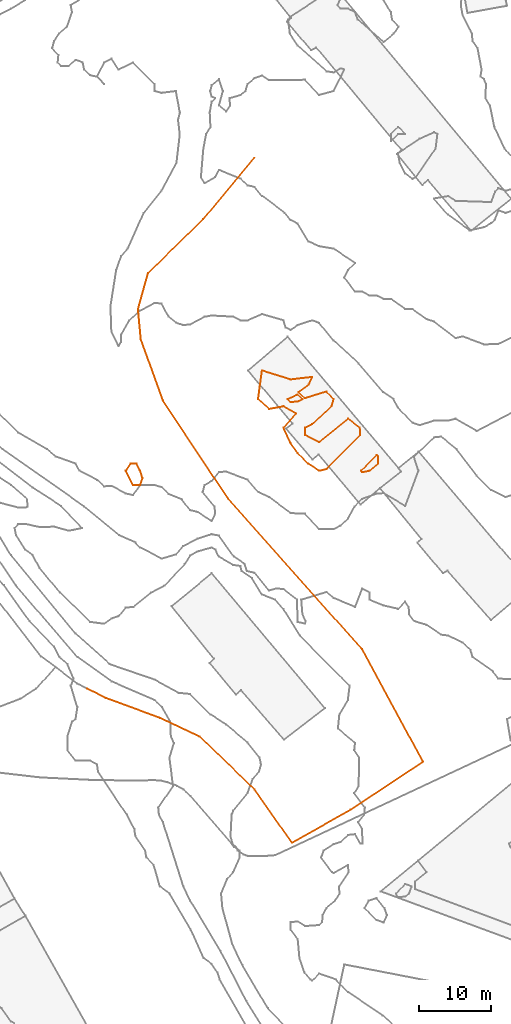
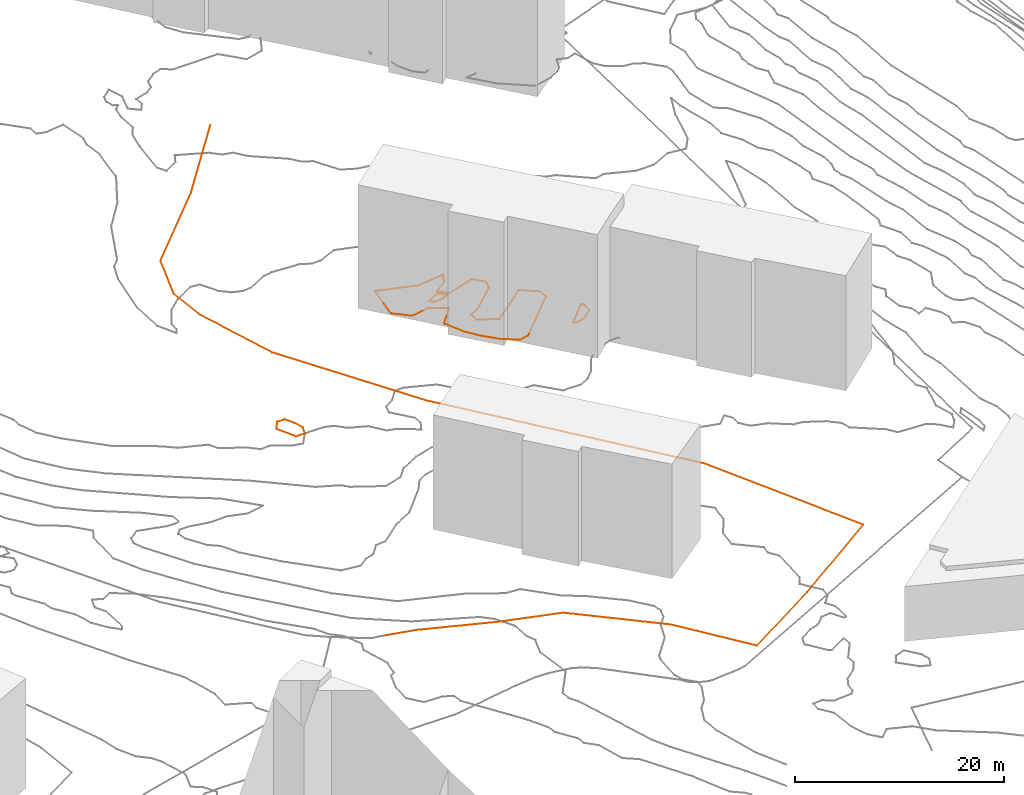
# Not in any storey, part 144 of 419: 5 proxies.
"""IFC2X3 model written with IfcOpenShell, lengths in metres."""

from ifc_helpers import new_model, entity, si_unit, frame, origin_with_axes, place, context, subcontext, project, element, save


model = new_model("IFC2X3")

# Units and contexts
model_context = context("Model", 3, precision=1e-05, world=origin_with_axes())
body_context = subcontext(model_context, "Body", "Model", "MODEL_VIEW")
ifc_project = project(units=[si_unit("AREAUNIT", "SQUARE_METRE"), si_unit("LENGTHUNIT", "METRE")], contexts=[model_context])

# Proxies
proxy_1_placement = place(None, frame((120.6920204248, 564.4976909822, 16.2), z_axis=(0.0, 0.0, 1.0), x_axis=(1.0, 0.0, 0.0)))
element("IfcBuildingElementProxy", 1, at=proxy_1_placement, Name="Route 336", ObjectType="NOTDEFINED", context=body_context, shape_type="GeometricCurveSet", body=[
    entity("IfcGeometricCurveSet", [entity("IfcPolyline", [entity("IfcCartesianPoint", [23.4, 74.2000000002, 6.6]), entity("IfcCartesianPoint", [16.2000000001, 65.5, 6.4]), entity("IfcCartesianPoint", [8.5, 58.0, 5.7]), entity("IfcCartesianPoint", [7.1, 53.0, 5.3]), entity("IfcCartesianPoint", [7.5, 48.8000000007, 5.3]), entity("IfcCartesianPoint", [10.6, 40.2000000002, 5.0]), entity("IfcCartesianPoint", [19.7000000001, 26.5, 4.5]), entity("IfcCartesianPoint", [38.4, 5.5, 3.3]), entity("IfcCartesianPoint", [46.9, -10.1999999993, 2.7]), entity("IfcCartesianPoint", [36.8, -16.8999999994, 2.4]), entity("IfcCartesianPoint", [28.6, -21.5, 1.8]), entity("IfcCartesianPoint", [23.4, -14.0999999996, 1.6]), entity("IfcCartesianPoint", [15.7000000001, -6.6999999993, 1.2]), entity("IfcCartesianPoint", [10.2000000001, -4.0999999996, 0.5]), entity("IfcCartesianPoint", [2.6, -1.2999999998, 0.5]), entity("IfcCartesianPoint", [0.0, 0.0, 0.0])])]),
])
proxy_2_placement = place(None, frame((148.6920204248, 604.8976909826, 21.0), z_axis=(0.0, 0.0, 1.0), x_axis=(1.0, 0.0, 0.0)))
element("IfcBuildingElementProxy", 2, at=proxy_2_placement, Name="Contour 21.0 m", ObjectType="NOTDEFINED", context=body_context, shape_type="GeometricCurveSet", body=[
    entity("IfcGeometricCurveSet", [entity("IfcPolyline", [entity("IfcCartesianPoint", [1.4, -0.333333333, 0.0]), entity("IfcCartesianPoint", [2.0666666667, 0.0, 0.0]), entity("IfcCartesianPoint", [1.4, 0.666666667, 0.0]), entity("IfcCartesianPoint", [0.0, 0.0, 0.0]), entity("IfcCartesianPoint", [0.4, -0.4000000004, 0.0]), entity("IfcCartesianPoint", [1.4, -0.333333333, 0.0])])]),
])
proxy_3_placement = place(None, frame((144.5586862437, 604.8976909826, 21.0), z_axis=(0.0, 0.0, 1.0), x_axis=(1.0, 0.0, 0.0)))
element("IfcBuildingElementProxy", 3, at=proxy_3_placement, Name="Contour 21.0 m", ObjectType="NOTDEFINED", context=body_context, shape_type="GeometricCurveSet", body=[
    entity("IfcGeometricCurveSet", [entity("IfcPolyline", [entity("IfcCartesianPoint", [8.5334341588, -10.0, 0.0]), entity("IfcCartesianPoint", [6.9777880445, -9.0, 0.0]), entity("IfcCartesianPoint", [5.5333341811, -7.500016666, 0.0]), entity("IfcCartesianPoint", [4.5333341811, -6.1428610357, 0.0]), entity("IfcCartesianPoint", [3.5333341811, -4.0000333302, 0.0]), entity("IfcCartesianPoint", [5.2833341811, -2.0, 0.0]), entity("IfcCartesianPoint", [3.5333341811, -1.0000249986, 0.0]), entity("IfcCartesianPoint", [1.5333341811, -1.3636426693, 0.0]), entity("IfcCartesianPoint", [0.0, 0.0, 0.0]), entity("IfcCartesianPoint", [0.5333341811, 4.0000499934, 0.0]), entity("IfcCartesianPoint", [4.5333341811, 2.75, 0.0]), entity("IfcCartesianPoint", [7.5333341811, 3.100001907, 0.0]), entity("IfcCartesianPoint", [7.0333508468, 2.0, 0.0]), entity("IfcCartesianPoint", [5.6583371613, 1.0, 0.0]), entity("IfcCartesianPoint", [6.5333341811, 0.1250029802, 0.0]), entity("IfcCartesianPoint", [9.5333341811, 1.0833346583, 0.0]), entity("IfcCartesianPoint", [10.5333432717, 0.0, 0.0]), entity("IfcCartesianPoint", [10.2476121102, -1.0, 0.0]), entity("IfcCartesianPoint", [7.5333341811, -3.5000249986, 0.0]), entity("IfcCartesianPoint", [6.5333841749, -4.0, 0.0]), entity("IfcCartesianPoint", [6.5334341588, -5.0, 0.0]), entity("IfcCartesianPoint", [8.5333341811, -5.9999000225, 0.0]), entity("IfcCartesianPoint", [12.5333341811, -2.7333299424, 0.0]), entity("IfcCartesianPoint", [14.2000008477, -4.0, 0.0]), entity("IfcCartesianPoint", [14.2392211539, -5.0, 0.0]), entity("IfcCartesianPoint", [9.5333341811, -9.75, 0.0]), entity("IfcCartesianPoint", [8.5334341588, -10.0, 0.0])])]),
])
proxy_4_placement = place(None, frame((158.9253484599, 594.8976909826, 21.0), z_axis=(0.0, 0.0, 1.0), x_axis=(1.0, 0.0, 0.0)))
element("IfcBuildingElementProxy", 4, at=proxy_4_placement, Name="Contour 21.0 m", ObjectType="NOTDEFINED", context=body_context, shape_type="GeometricCurveSet", body=[
    entity("IfcGeometricCurveSet", [entity("IfcPolyline", [entity("IfcCartesianPoint", [1.2051343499, 0.0, 0.0]), entity("IfcCartesianPoint", [0.1666719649, -0.2000000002, 0.0]), entity("IfcCartesianPoint", [0.0, 0.0, 0.0]), entity("IfcCartesianPoint", [2.1666719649, 2.2142886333, 0.0]), entity("IfcCartesianPoint", [2.4166759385, 2.0, 0.0]), entity("IfcCartesianPoint", [2.3666745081, 1.0, 0.0]), entity("IfcCartesianPoint", [1.2051343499, 0.0, 0.0])])]),
])
proxy_5_placement = place(None, frame((126.0920537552, 594.8976909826, 20.0), z_axis=(0.0, 0.0, 1.0), x_axis=(1.0, 0.0, 0.0)))
element("IfcBuildingElementProxy", 5, at=proxy_5_placement, Name="Contour 20.0 m", ObjectType="NOTDEFINED", context=body_context, shape_type="GeometricCurveSet", body=[
    entity("IfcGeometricCurveSet", [entity("IfcPolyline", [entity("IfcCartesianPoint", [1.9999666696, -1.9999000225, 0.0]), entity("IfcCartesianPoint", [2.333300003, -1.0, 0.0]), entity("IfcCartesianPoint", [1.9999333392, 0.0, 0.0]), entity("IfcCartesianPoint", [1.4999166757, 1.0, 0.0]), entity("IfcCartesianPoint", [0.6666333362, 1.0, 0.0]), entity("IfcCartesianPoint", [0.0, 0.0, 0.0]), entity("IfcCartesianPoint", [0.9999666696, -1.9999500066, 0.0]), entity("IfcCartesianPoint", [1.9999666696, -1.9999000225, 0.0])])]),
])

save(model, "model.ifc")
